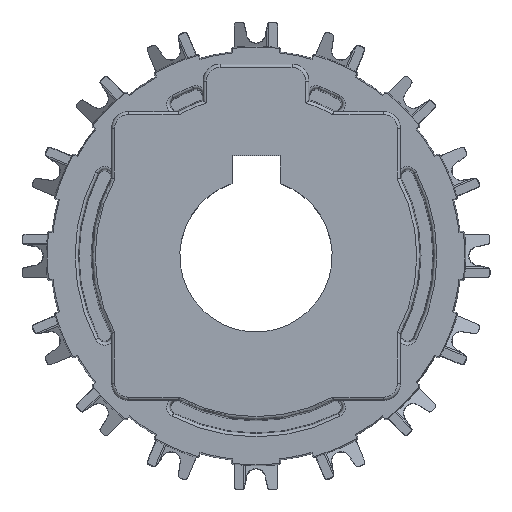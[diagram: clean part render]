
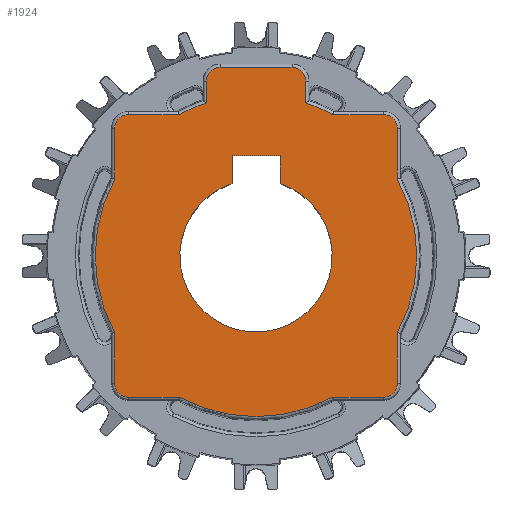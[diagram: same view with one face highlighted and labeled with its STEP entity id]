
A CAD part, top view. The second image highlights one B-rep face of the part: STEP entity #1924.
In plain terms, the highlighted planar face has unit normal (0, 0, 1).
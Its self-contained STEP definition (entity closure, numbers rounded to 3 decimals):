
#1924=ADVANCED_FACE('',(#3164,#3165),#2783,.T.);
#2783=PLANE('',#15109);
#3164=FACE_BOUND('',#3194,.T.);
#3165=FACE_BOUND('',#3195,.T.);
#3194=EDGE_LOOP('',(#4892,#4893,#4894,#4895));
#3195=EDGE_LOOP('',(#4896,#4897,#4898,#4899,#4900,#4901,#4902,#4903,#4904,
#4905,#4906,#4907,#4908,#4909,#4910,#4911,#4912,#4913,#4914,#4915,#4916,
#4917));
#4145=CIRCLE('',#15097,12.7);
#4146=CIRCLE('',#15098,26.799);
#4147=CIRCLE('',#15099,2.299);
#4148=CIRCLE('',#15100,2.299);
#4149=CIRCLE('',#15101,26.799);
#4150=CIRCLE('',#15102,2.299);
#4151=CIRCLE('',#15103,26.799);
#4152=CIRCLE('',#15104,2.299);
#4153=CIRCLE('',#15105,26.799);
#4154=CIRCLE('',#15106,2.299);
#4155=CIRCLE('',#15107,26.799);
#4156=CIRCLE('',#15108,2.299);
#4892=ORIENTED_EDGE('',*,*,#10629,.F.);
#4893=ORIENTED_EDGE('',*,*,#10630,.F.);
#4894=ORIENTED_EDGE('',*,*,#10631,.F.);
#4895=ORIENTED_EDGE('',*,*,#10632,.F.);
#4896=ORIENTED_EDGE('',*,*,#10633,.T.);
#4897=ORIENTED_EDGE('',*,*,#10634,.T.);
#4898=ORIENTED_EDGE('',*,*,#10635,.T.);
#4899=ORIENTED_EDGE('',*,*,#10636,.T.);
#4900=ORIENTED_EDGE('',*,*,#10637,.T.);
#4901=ORIENTED_EDGE('',*,*,#10638,.T.);
#4902=ORIENTED_EDGE('',*,*,#10639,.T.);
#4903=ORIENTED_EDGE('',*,*,#10640,.T.);
#4904=ORIENTED_EDGE('',*,*,#10641,.T.);
#4905=ORIENTED_EDGE('',*,*,#10642,.T.);
#4906=ORIENTED_EDGE('',*,*,#10643,.T.);
#4907=ORIENTED_EDGE('',*,*,#10644,.T.);
#4908=ORIENTED_EDGE('',*,*,#10645,.T.);
#4909=ORIENTED_EDGE('',*,*,#10646,.T.);
#4910=ORIENTED_EDGE('',*,*,#10647,.T.);
#4911=ORIENTED_EDGE('',*,*,#10648,.T.);
#4912=ORIENTED_EDGE('',*,*,#10649,.T.);
#4913=ORIENTED_EDGE('',*,*,#10650,.T.);
#4914=ORIENTED_EDGE('',*,*,#10651,.T.);
#4915=ORIENTED_EDGE('',*,*,#10652,.T.);
#4916=ORIENTED_EDGE('',*,*,#10653,.T.);
#4917=ORIENTED_EDGE('',*,*,#10654,.T.);
#9254=VERTEX_POINT('',#21667);
#9255=VERTEX_POINT('',#21668);
#9256=VERTEX_POINT('',#21670);
#9257=VERTEX_POINT('',#21672);
#9258=VERTEX_POINT('',#21675);
#9259=VERTEX_POINT('',#21676);
#9260=VERTEX_POINT('',#21678);
#9261=VERTEX_POINT('',#21680);
#9262=VERTEX_POINT('',#21682);
#9263=VERTEX_POINT('',#21684);
#9264=VERTEX_POINT('',#21686);
#9265=VERTEX_POINT('',#21688);
#9266=VERTEX_POINT('',#21690);
#9267=VERTEX_POINT('',#21692);
#9268=VERTEX_POINT('',#21694);
#9269=VERTEX_POINT('',#21696);
#9270=VERTEX_POINT('',#21698);
#9271=VERTEX_POINT('',#21700);
#9272=VERTEX_POINT('',#21702);
#9273=VERTEX_POINT('',#21704);
#9274=VERTEX_POINT('',#21706);
#9275=VERTEX_POINT('',#21708);
#9276=VERTEX_POINT('',#21710);
#9277=VERTEX_POINT('',#21712);
#9278=VERTEX_POINT('',#21714);
#9279=VERTEX_POINT('',#21716);
#10629=EDGE_CURVE('',#9254,#9255,#4145,.T.);
#10630=EDGE_CURVE('',#9256,#9254,#12722,.T.);
#10631=EDGE_CURVE('',#9257,#9256,#12723,.T.);
#10632=EDGE_CURVE('',#9255,#9257,#12724,.T.);
#10633=EDGE_CURVE('',#9258,#9259,#4146,.T.);
#10634=EDGE_CURVE('',#9259,#9260,#12725,.T.);
#10635=EDGE_CURVE('',#9260,#9261,#4147,.T.);
#10636=EDGE_CURVE('',#9261,#9262,#12726,.T.);
#10637=EDGE_CURVE('',#9262,#9263,#4148,.T.);
#10638=EDGE_CURVE('',#9263,#9264,#12727,.T.);
#10639=EDGE_CURVE('',#9264,#9265,#4149,.T.);
#10640=EDGE_CURVE('',#9265,#9266,#12728,.T.);
#10641=EDGE_CURVE('',#9266,#9267,#4150,.T.);
#10642=EDGE_CURVE('',#9267,#9268,#12729,.T.);
#10643=EDGE_CURVE('',#9268,#9269,#4151,.T.);
#10644=EDGE_CURVE('',#9269,#9270,#12730,.T.);
#10645=EDGE_CURVE('',#9270,#9271,#4152,.T.);
#10646=EDGE_CURVE('',#9271,#9272,#12731,.T.);
#10647=EDGE_CURVE('',#9272,#9273,#4153,.T.);
#10648=EDGE_CURVE('',#9273,#9274,#12732,.T.);
#10649=EDGE_CURVE('',#9274,#9275,#4154,.T.);
#10650=EDGE_CURVE('',#9275,#9276,#12733,.T.);
#10651=EDGE_CURVE('',#9276,#9277,#4155,.T.);
#10652=EDGE_CURVE('',#9277,#9278,#12734,.T.);
#10653=EDGE_CURVE('',#9278,#9279,#4156,.T.);
#10654=EDGE_CURVE('',#9279,#9258,#12735,.T.);
#12722=LINE('',#21669,#13890);
#12723=LINE('',#21671,#13891);
#12724=LINE('',#21673,#13892);
#12725=LINE('',#21677,#13893);
#12726=LINE('',#21681,#13894);
#12727=LINE('',#21685,#13895);
#12728=LINE('',#21689,#13896);
#12729=LINE('',#21693,#13897);
#12730=LINE('',#21697,#13898);
#12731=LINE('',#21701,#13899);
#12732=LINE('',#21705,#13900);
#12733=LINE('',#21709,#13901);
#12734=LINE('',#21713,#13902);
#12735=LINE('',#21717,#13903);
#13890=VECTOR('',#16975,1.);
#13891=VECTOR('',#16976,1.);
#13892=VECTOR('',#16977,1.);
#13893=VECTOR('',#16980,1.);
#13894=VECTOR('',#16983,1.);
#13895=VECTOR('',#16986,1.);
#13896=VECTOR('',#16989,1.);
#13897=VECTOR('',#16992,1.);
#13898=VECTOR('',#16995,1.);
#13899=VECTOR('',#16998,1.);
#13900=VECTOR('',#17001,1.);
#13901=VECTOR('',#17004,1.);
#13902=VECTOR('',#17007,1.);
#13903=VECTOR('',#17010,1.);
#15097=AXIS2_PLACEMENT_3D('',#21666,#16973,#16974);
#15098=AXIS2_PLACEMENT_3D('',#21674,#16978,#16979);
#15099=AXIS2_PLACEMENT_3D('',#21679,#16981,#16982);
#15100=AXIS2_PLACEMENT_3D('',#21683,#16984,#16985);
#15101=AXIS2_PLACEMENT_3D('',#21687,#16987,#16988);
#15102=AXIS2_PLACEMENT_3D('',#21691,#16990,#16991);
#15103=AXIS2_PLACEMENT_3D('',#21695,#16993,#16994);
#15104=AXIS2_PLACEMENT_3D('',#21699,#16996,#16997);
#15105=AXIS2_PLACEMENT_3D('',#21703,#16999,#17000);
#15106=AXIS2_PLACEMENT_3D('',#21707,#17002,#17003);
#15107=AXIS2_PLACEMENT_3D('',#21711,#17005,#17006);
#15108=AXIS2_PLACEMENT_3D('',#21715,#17008,#17009);
#15109=AXIS2_PLACEMENT_3D('',#21718,#17011,#17012);
#16973=DIRECTION('',(0.,0.,1.));
#16974=DIRECTION('',(1.,0.,0.));
#16975=DIRECTION('',(0.,-1.,0.));
#16976=DIRECTION('',(-1.,0.,0.));
#16977=DIRECTION('',(0.,1.,0.));
#16978=DIRECTION('',(0.,0.,1.));
#16979=DIRECTION('',(1.,0.,0.));
#16980=DIRECTION('',(0.,1.,0.));
#16981=DIRECTION('',(0.,0.,1.));
#16982=DIRECTION('',(1.,0.,0.));
#16983=DIRECTION('',(-1.,0.,0.));
#16984=DIRECTION('',(0.,0.,1.));
#16985=DIRECTION('',(1.,0.,0.));
#16986=DIRECTION('',(0.,-1.,0.));
#16987=DIRECTION('',(0.,0.,1.));
#16988=DIRECTION('',(1.,0.,0.));
#16989=DIRECTION('',(-1.,0.,0.));
#16990=DIRECTION('',(0.,0.,1.));
#16991=DIRECTION('',(1.,0.,0.));
#16992=DIRECTION('',(0.,-1.,0.));
#16993=DIRECTION('',(0.,0.,1.));
#16994=DIRECTION('',(1.,0.,0.));
#16995=DIRECTION('',(0.,-1.,0.));
#16996=DIRECTION('',(0.,0.,1.));
#16997=DIRECTION('',(1.,0.,0.));
#16998=DIRECTION('',(1.,0.,0.));
#16999=DIRECTION('',(0.,0.,1.));
#17000=DIRECTION('',(1.,0.,0.));
#17001=DIRECTION('',(1.,0.,0.));
#17002=DIRECTION('',(0.,0.,1.));
#17003=DIRECTION('',(1.,0.,0.));
#17004=DIRECTION('',(0.,1.,0.));
#17005=DIRECTION('',(0.,0.,1.));
#17006=DIRECTION('',(1.,0.,0.));
#17007=DIRECTION('',(0.,1.,0.));
#17008=DIRECTION('',(0.,0.,1.));
#17009=DIRECTION('',(1.,0.,0.));
#17010=DIRECTION('',(-1.,0.,0.));
#17011=DIRECTION('',(0.,0.,1.));
#17012=DIRECTION('',(1.,0.,0.));
#21666=CARTESIAN_POINT('',(0.,0.,0.5));
#21667=CARTESIAN_POINT('',(-4.,12.054,0.5));
#21668=CARTESIAN_POINT('',(4.,12.054,0.5));
#21669=CARTESIAN_POINT('',(-4.,0.,0.5));
#21670=CARTESIAN_POINT('',(-4.,16.7,0.5));
#21671=CARTESIAN_POINT('',(0.,16.7,0.5));
#21672=CARTESIAN_POINT('',(4.,16.7,0.5));
#21673=CARTESIAN_POINT('',(4.,0.,0.5));
#21674=CARTESIAN_POINT('',(0.,0.,
0.5));
#21675=CARTESIAN_POINT('',(12.792,23.549,0.5));
#21676=CARTESIAN_POINT('',(8.299,25.482,0.5));
#21677=CARTESIAN_POINT('',(8.299,0.,0.5));
#21678=CARTESIAN_POINT('',(8.299,29.142,0.5));
#21679=CARTESIAN_POINT('',(6.,29.142,0.5));
#21680=CARTESIAN_POINT('',(6.,31.441,0.5));
#21681=CARTESIAN_POINT('',(0.,31.441,0.5));
#21682=CARTESIAN_POINT('',(-6.,31.441,0.5));
#21683=CARTESIAN_POINT('',(-6.,29.142,0.5));
#21684=CARTESIAN_POINT('',(-8.299,29.142,0.5));
#21685=CARTESIAN_POINT('',(-8.299,0.,0.5));
#21686=CARTESIAN_POINT('',(-8.299,25.482,0.5));
#21687=CARTESIAN_POINT('',(0.,0.,
0.5));
#21688=CARTESIAN_POINT('',(-12.792,23.549,0.5));
#21689=CARTESIAN_POINT('',(0.,23.549,0.5));
#21690=CARTESIAN_POINT('',(-21.25,23.549,0.5));
#21691=CARTESIAN_POINT('',(-21.25,21.25,0.5));
#21692=CARTESIAN_POINT('',(-23.549,21.25,0.5));
#21693=CARTESIAN_POINT('',(-23.549,0.,0.5));
#21694=CARTESIAN_POINT('',(-23.549,12.792,0.5));
#21695=CARTESIAN_POINT('',(0.,0.,
0.5));
#21696=CARTESIAN_POINT('',(-23.549,-12.792,0.5));
#21697=CARTESIAN_POINT('',(-23.549,0.,0.5));
#21698=CARTESIAN_POINT('',(-23.549,-21.25,0.5));
#21699=CARTESIAN_POINT('',(-21.25,-21.25,0.5));
#21700=CARTESIAN_POINT('',(-21.25,-23.549,0.5));
#21701=CARTESIAN_POINT('',(0.,-23.549,0.5));
#21702=CARTESIAN_POINT('',(-12.792,-23.549,0.5));
#21703=CARTESIAN_POINT('',(0.,0.,
0.5));
#21704=CARTESIAN_POINT('',(12.792,-23.549,0.5));
#21705=CARTESIAN_POINT('',(0.,-23.549,0.5));
#21706=CARTESIAN_POINT('',(21.25,-23.549,0.5));
#21707=CARTESIAN_POINT('',(21.25,-21.25,0.5));
#21708=CARTESIAN_POINT('',(23.549,-21.25,0.5));
#21709=CARTESIAN_POINT('',(23.549,0.,0.5));
#21710=CARTESIAN_POINT('',(23.549,-12.792,0.5));
#21711=CARTESIAN_POINT('',(0.,0.,
0.5));
#21712=CARTESIAN_POINT('',(23.549,12.792,0.5));
#21713=CARTESIAN_POINT('',(23.549,0.,0.5));
#21714=CARTESIAN_POINT('',(23.549,21.25,0.5));
#21715=CARTESIAN_POINT('',(21.25,21.25,0.5));
#21716=CARTESIAN_POINT('',(21.25,23.549,0.5));
#21717=CARTESIAN_POINT('',(0.,23.549,0.5));
#21718=CARTESIAN_POINT('',(0.,0.,
0.5));
